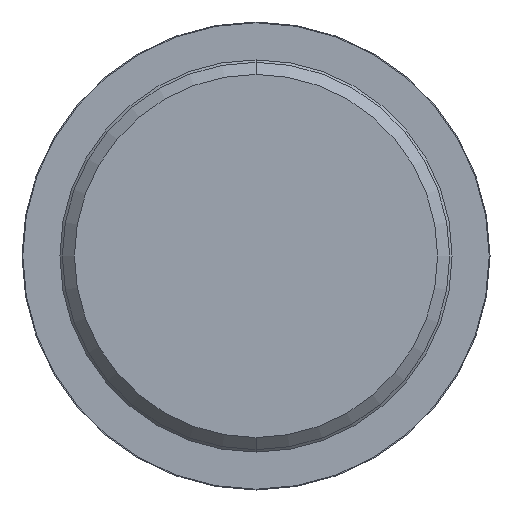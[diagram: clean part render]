
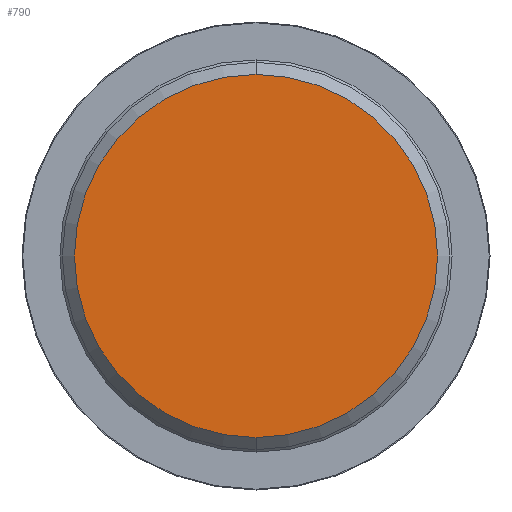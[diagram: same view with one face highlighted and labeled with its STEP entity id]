
A CAD part, front view. The second image highlights one B-rep face of the part: STEP entity #790.
In plain terms, the highlighted planar face has unit normal (0, -1, 0).
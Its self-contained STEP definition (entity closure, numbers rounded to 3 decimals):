
#8 = FACE_OUTER_BOUND ( 'NONE', #505, .T. ) ;
#149 = EDGE_CURVE ( 'NONE', #671, #627, #654, .T. ) ;
#182 = DIRECTION ( 'NONE',  ( 0., 0., 1. ) ) ;
#209 = DIRECTION ( 'NONE',  ( 0., 1., 0. ) ) ;
#217 = CARTESIAN_POINT ( 'NONE',  ( 11.25, 0., 0. ) ) ;
#349 = CARTESIAN_POINT ( 'NONE',  ( 0., 0., -11.25 ) ) ;
#361 = DIRECTION ( 'NONE',  ( 0., 0., 1. ) ) ;
#367 = CARTESIAN_POINT ( 'NONE',  ( 0., 0., 0. ) ) ;
#449 = AXIS2_PLACEMENT_3D ( 'NONE', #890, #675, #361 ) ;
#505 = EDGE_LOOP ( 'NONE', ( #774, #589 ) ) ;
#528 = AXIS2_PLACEMENT_3D ( 'NONE', #217, #209, #679 ) ;
#589 = ORIENTED_EDGE ( 'NONE', *, *, #770, .F. ) ;
#627 = VERTEX_POINT ( 'NONE', #349 ) ;
#654 = CIRCLE ( 'NONE', #869, 11.25 ) ;
#671 = VERTEX_POINT ( 'NONE', #880 ) ;
#675 = DIRECTION ( 'NONE',  ( 0., 1., 0. ) ) ;
#679 = DIRECTION ( 'NONE',  ( 0., 0., 1. ) ) ;
#770 = EDGE_CURVE ( 'NONE', #627, #671, #962, .T. ) ;
#774 = ORIENTED_EDGE ( 'NONE', *, *, #149, .F. ) ;
#790 = ADVANCED_FACE ( 'NONE', ( #8 ), #898, .F. ) ;
#862 = DIRECTION ( 'NONE',  ( 0., 1., 0. ) ) ;
#869 = AXIS2_PLACEMENT_3D ( 'NONE', #367, #862, #182 ) ;
#880 = CARTESIAN_POINT ( 'NONE',  ( 0., 0., 11.25 ) ) ;
#890 = CARTESIAN_POINT ( 'NONE',  ( 0., 0., 0. ) ) ;
#898 = PLANE ( 'NONE',  #528 ) ;
#962 = CIRCLE ( 'NONE', #449, 11.25 ) ;
